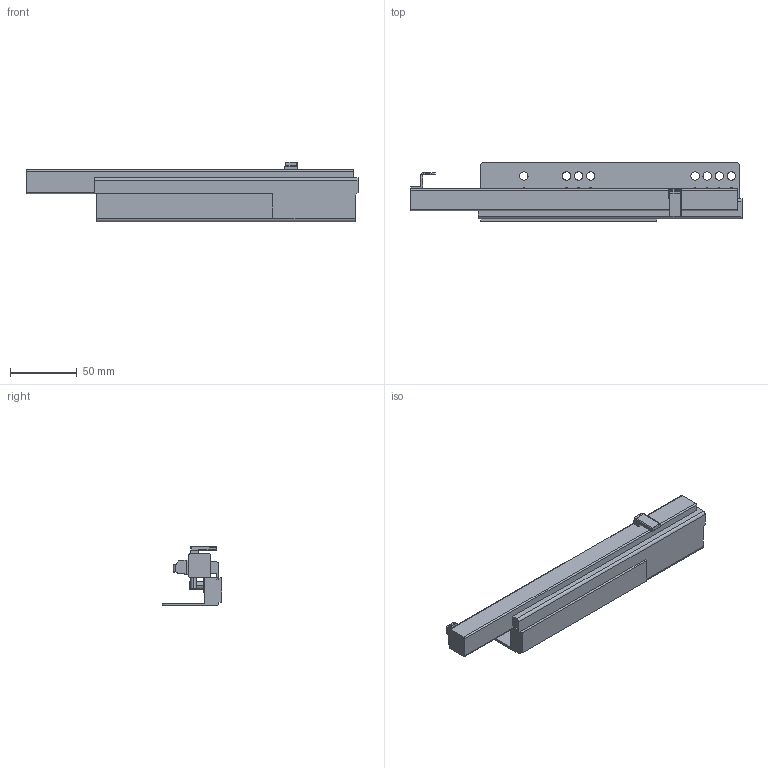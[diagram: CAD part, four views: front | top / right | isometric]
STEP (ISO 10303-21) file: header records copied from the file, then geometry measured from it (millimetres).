
FILE_DESCRIPTION (( 'STEP AP203' ), '1' );
FILE_NAME ('GG10250H-R-DTC3D-close.STEP', '2021-07-02T00:46:32', ( 'df' ), ( 'Microsoft' ), 'SwSTEP 2.0', 'SolidWorks 2018', '' );
FILE_SCHEMA (( 'CONFIG_CONTROL_DESIGN' ));
Length unit declared in the file: millimetre
Products named in the file (1): GG10250H-R-DTC3D-close
Bounding box: 248 x 44.1 x 44.73 mm (x, y, z)
Volume: 135947.1 mm3; surface area: 45547.9 mm2
Topology: 1 solids, 1 shells, 164 faces, 459 edges, 297 vertices
Faces by surface type: cylinder 80, plane 76, bspline 4, sphere 2, cone 2
Entity records: 5493 total; most frequent: CARTESIAN_POINT 1096, ORIENTED_EDGE 914, DIRECTION 899, EDGE_CURVE 457, AXIS2_PLACEMENT_3D 311, VERTEX_POINT 297, LINE 277, VECTOR 277
